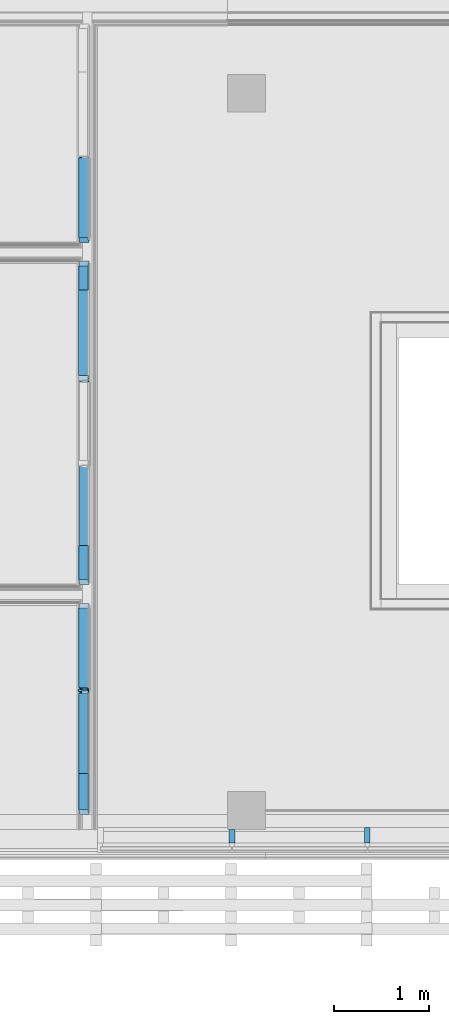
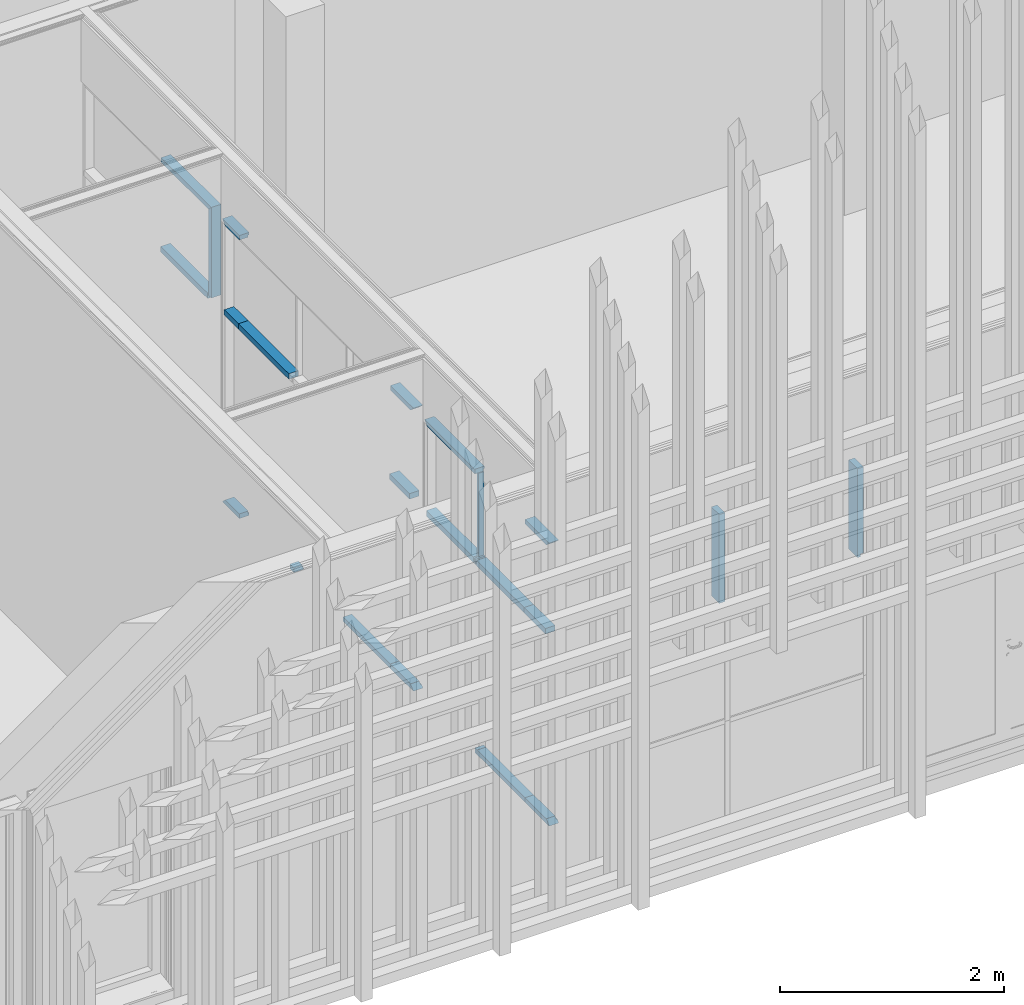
# One storey, part 95 of 260: 24 members, 4 elements without a shape of their own.
"""IFC2X3 building model written with IfcOpenShell, lengths in millimetres."""

from ifc_helpers import new_model, entity, si_unit, converted_unit, derived_unit, money_unit, direction, frame, origin_with_axes, place, context, subcontext, project, spatial, faceted_brep, material, type_object, element, aggregate, save


model = new_model("IFC2X3")

# Units and contexts
model_context = context("Model", 3, precision=0.01, world=origin_with_axes(), true_north=direction((0.0, 1.0)))
body_context = subcontext(model_context, "Body", "Model", "MODEL_VIEW")
ifc_project = project(units=[si_unit("LENGTHUNIT", "METRE", prefix="MILLI"), si_unit("AREAUNIT", "SQUARE_METRE"), si_unit("VOLUMEUNIT", "CUBIC_METRE"), converted_unit("PLANEANGLEUNIT", "DEGREE", entity("IfcPlaneAngleMeasure", 0.0174532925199), si_unit("PLANEANGLEUNIT", "RADIAN"), dimensions=[0, 0, 0, 0, 0, 0, 0]), money_unit("EUR"), converted_unit("TIMEUNIT", "Year", entity("IfcTimeMeasure", 31556926.0), si_unit("TIMEUNIT", "SECOND"), dimensions=[0, 0, 1, 0, 0, 0, 0]), si_unit("MASSUNIT", "GRAM", prefix="KILO"), si_unit("THERMODYNAMICTEMPERATUREUNIT", "DEGREE_CELSIUS"), si_unit("LUMINOUSINTENSITYUNIT", "LUMEN"), si_unit("ENERGYUNIT", "JOULE", prefix="MEGA"), derived_unit("THERMALCONDUCTANCEUNIT", [(si_unit("POWERUNIT", "WATT"), 1), (si_unit("LENGTHUNIT", "METRE"), -1), (si_unit("THERMODYNAMICTEMPERATUREUNIT", "KELVIN"), -1)]), derived_unit("SPECIFICHEATCAPACITYUNIT", [(si_unit("ENERGYUNIT", "JOULE"), 1), (si_unit("MASSUNIT", "GRAM", prefix="KILO"), -1), (si_unit("THERMODYNAMICTEMPERATUREUNIT", "KELVIN"), -1)]), derived_unit("MASSDENSITYUNIT", [(si_unit("MASSUNIT", "GRAM", prefix="KILO"), 1), (si_unit("VOLUMEUNIT", "CUBIC_METRE"), -1)])], contexts=[model_context])

# Site, building, storey
site_placement = place(None, origin_with_axes())
site = spatial("IfcSite", under=ifc_project, at=site_placement, Name="Kolde pst 67a", CompositionType="ELEMENT")
building_placement = place(site_placement, origin_with_axes())
building = spatial("IfcBuilding", under=site, at=building_placement, Name="Riigigümnaasium", CompositionType="ELEMENT")
storey_placement = place(building_placement, origin_with_axes())
storey = spatial("IfcBuildingStorey", under=building, at=storey_placement, Name="1. korrus", CompositionType="ELEMENT", Elevation=0.0)

# Curtain wall, members
curtain_wall_type = type_object("IfcCurtainWallType", Name="Curtain Wall Type", PredefinedType="NOTDEFINED")
curtain_wall_1_placement = place(storey_placement, frame((11015.6058867, 55913.7308132, 399.999999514), z_axis=(0.0, 0.0, 1.0), x_axis=(1.0, 0.0, 0.0)))
curtain_wall_1 = element("IfcCurtainWall", 1, at=curtain_wall_1_placement, inside=storey, type_object=curtain_wall_type, Name="KLAASSEIN")
ifc_material_1 = material(Name="_GENEERILINE MATERJAL")
member_type_1 = type_object("IfcMemberType", Name="Boundary Frame 50 x 100", PredefinedType="MEMBER")
member_1_placement = place(curtain_wall_1_placement, frame((-0.018554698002, -1669.36995033, 2100.00002621), z_axis=(0.0, 0.0, 1.0), x_axis=(1.11147909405e-05, 0.999999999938, 0.0)))
member_1 = element("IfcMember", 2, at=member_1_placement, type_object=member_type_1, material=ifc_material_1, Name="RF RAAM SERV-344", ObjectType="MEMBER", context=body_context, shape_type="Brep", body=[
    faceted_brep([(50.0, 10.0, 0.0), (50.0, 100.0, 0.0), (50.0, 100.0, 940.000002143), (50.0, 10.0, 940.000002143), (25.0, 10.0, 0.0), (25.0, 0.0, 0.0), (0.0, 0.0, 0.0), (0.0, 100.0, 0.0), (0.0, 100.0, 990.000002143), (25.0, 10.0, 965.000002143), (0.0, 0.0, 990.000002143), (25.0, 0.0, 965.000002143)], [[[0, 1, 2, 3]], [[4, 5, 6, 7, 1, 0]], [[1, 7, 8, 2]], [[9, 3, 2, 8, 10, 11]], [[9, 4, 0, 3]], [[5, 4, 9, 11]], [[11, 10, 6, 5]], [[7, 6, 10, 8]]]),
])
member_2_placement = place(curtain_wall_1_placement, frame((-0.018554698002, -1669.36995033, 3090.00002835), z_axis=(1.11147909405e-05, 0.999999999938, 0.0), x_axis=(0.0, 0.0, -1.0)))
member_2 = element("IfcMember", 3, at=member_2_placement, type_object=member_type_1, material=ifc_material_1, Name="RF RAAM SERV-345", ObjectType="MEMBER", context=body_context, shape_type="Brep", body=[
    faceted_brep([(50.0, 10.0000000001, 50.0), (50.0, 100.0, 49.9999999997), (50.0, 100.000000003, 900.0), (50.0, 10.0000000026, 900.0), (25.0, 10.0000000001, 25.0), (25.0, 0.0, 25.0), (0.0, 0.0, 0.0), (0.0, 100.0, -2.91322521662e-10), (0.0, 100.000000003, 900.0), (25.0, 10.0000000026, 900.0), (0.0, 2.62545540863e-09, 900.0), (25.0, 2.62545540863e-09, 900.0)], [[[0, 1, 2, 3]], [[4, 5, 6, 7, 1, 0]], [[2, 1, 7, 8]], [[9, 3, 2, 8, 10, 11]], [[9, 4, 0, 3]], [[5, 4, 9, 11]], [[11, 10, 6, 5]], [[8, 7, 6, 10]]]),
])

curtain_wall_2_placement = place(storey_placement, frame((11015.3356079, 51182.3220161, 399.999976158), z_axis=(0.0, 0.0, 1.0), x_axis=(1.0, 0.0, 0.0)))
curtain_wall_2 = element("IfcCurtainWall", 4, at=curtain_wall_2_placement, inside=storey, type_object=curtain_wall_type, Name="KLAASSEIN")
member_3_placement = place(curtain_wall_2_placement, frame((0.0177246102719, 1594.68678837, 5.96047033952e-06), z_axis=(1.11147909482e-05, 0.999999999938, 0.0), x_axis=(0.0, 0.0, 1.0)))
member_3 = element("IfcMember", 5, at=member_3_placement, type_object=member_type_1, material=ifc_material_1, Name="RF RAAM SERV-501", ObjectType="MEMBER", context=body_context, shape_type="Brep", body=[
    faceted_brep([(50.0, -9.99999999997, -10.0), (50.0, -10.0000000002, 62.9695103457), (50.0, -100.0, 62.9695103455), (50.0, -100.0, -10.0000000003), (25.0, -10.0000000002, 62.9695103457), (25.0, -9.99999999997, -10.0), (25.0, -1.84741111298e-10, 62.9695103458), (0.0, -1.84741111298e-10, 62.9695103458), (0.0, -100.0, 62.9695103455), (0.0, -100.0, -10.0000000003), (0.0, 0.0, -10.0), (25.0, 0.0, -10.0)], [[[0, 1, 2, 3]], [[4, 1, 0, 5]], [[4, 6, 7, 8, 2, 1]], [[3, 2, 8, 9]], [[5, 0, 3, 9, 10, 11]], [[11, 6, 4, 5]], [[6, 11, 10, 7]], [[9, 8, 7, 10]]]),
])
member_4_placement = place(curtain_wall_2_placement, frame((-0.0061391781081, -552.343101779, 5.96047033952e-06), z_axis=(1.11147909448e-05, 0.999999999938, 0.0), x_axis=(0.0, 0.0, 1.0)))
member_4 = element("IfcMember", 6, at=member_4_placement, type_object=member_type_1, material=ifc_material_1, Name="RF RAAM SERV-499", ObjectType="MEMBER", context=body_context, shape_type="Brep", body=[
    faceted_brep([(50.0, -10.0000000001, 50.0), (50.0, -10.0000000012, 409.999400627), (50.0, -100.000000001, 409.999400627), (50.0, -100.0, 49.9999999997), (25.0, -10.0000000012, 409.999400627), (25.0, -10.0000000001, 25.0), (25.0, -1.1990408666e-09, 409.999400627), (0.0, -1.1990408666e-09, 409.999400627), (0.0, -100.000000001, 409.999400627), (0.0, -100.0, -2.98427949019e-10), (0.0, 0.0, 0.0), (25.0, 0.0, 25.0)], [[[0, 1, 2, 3]], [[4, 1, 0, 5]], [[4, 6, 7, 8, 2, 1]], [[2, 8, 9, 3]], [[5, 0, 3, 9, 10, 11]], [[11, 6, 4, 5]], [[6, 11, 10, 7]], [[8, 7, 10, 9]]]),
])
member_5_placement = place(curtain_wall_2_placement, frame((-0.00158212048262, -142.343701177, 5.96047033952e-06), z_axis=(1.11147909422e-05, 0.999999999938, 0.0), x_axis=(0.0, 0.0, 1.0)))
member_5 = element("IfcMember", 7, at=member_5_placement, type_object=member_type_1, material=ifc_material_1, Name="RF RAAM SERV-500", ObjectType="MEMBER", context=body_context, shape_type="Brep", body=[
    faceted_brep([(50.0, -10.0, 0.0), (50.0, -10.0000000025, 847.030504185), (50.0, -100.000000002, 847.030504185), (50.0, -100.0, -2.91322521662e-10), (25.0, -10.0000000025, 847.030504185), (25.0, -10.0, 0.0), (25.0, -2.47446507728e-09, 847.030504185), (0.0, -2.47446507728e-09, 847.030504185), (0.0, -100.000000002, 847.030504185), (0.0, -100.0, -2.91322521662e-10), (0.0, 0.0, 0.0), (25.0, 0.0, 0.0)], [[[0, 1, 2, 3]], [[4, 1, 0, 5]], [[4, 6, 7, 8, 2, 1]], [[3, 2, 8, 9]], [[5, 0, 3, 9, 10, 11]], [[11, 6, 4, 5]], [[6, 11, 10, 7]], [[9, 8, 7, 10]]]),
])
member_6_placement = place(curtain_wall_2_placement, frame((-0.00158212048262, -142.343701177, 3090.0000517), z_axis=(-1.11147909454e-05, -0.999999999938, -1.56488529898e-07), x_axis=(0.0, 1.56488529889e-07, -1.0)))
member_6 = element("IfcMember", 8, at=member_6_placement, type_object=member_type_1, material=ifc_material_1, Name="RF RAAM SERV-510", ObjectType="MEMBER", context=body_context, shape_type="Brep", body=[
    faceted_brep([(50.0, -10.0, 3.91224119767e-06), (49.9999436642, -9.99999999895, 359.999421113), (49.9999436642, -99.9999999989, 359.999421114), (50.0, -100.0, 3.91250409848e-06), (24.999939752, -9.99999999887, 384.999413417), (25.0, -10.0, 0.0), (24.999939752, 1.12443387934e-09, 384.999413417), (-6.41602042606e-05, 1.19726450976e-09, 409.999405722), (-6.41602042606e-05, -99.9999999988, 409.999405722), (0.0, -100.0, -3.91192145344e-06), (0.0, 0.0, -3.91221277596e-06), (25.0, 0.0, 0.0)], [[[0, 1, 2, 3]], [[4, 1, 0, 5]], [[4, 6, 7, 8, 2, 1]], [[3, 2, 8, 9]], [[5, 0, 3, 9, 10, 11]], [[11, 6, 4, 5]], [[6, 11, 10, 7]], [[9, 8, 7, 10]]]),
])
member_7_placement = place(curtain_wall_2_placement, frame((0.0318180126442, 2862.67306383, 3089.99998282), z_axis=(-1.11147909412e-05, -0.999999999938, 2.25843344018e-07), x_axis=(0.0, -2.25843344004e-07, -1.0)))
member_7 = element("IfcMember", 9, at=member_7_placement, type_object=member_type_1, material=ifc_material_1, Name="RF RAAM SERV-506", ObjectType="MEMBER", context=body_context, shape_type="Brep", body=[
    faceted_brep([(50.0000112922, -9.99999999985, 49.9999774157), (50.000068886, -9.99999999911, 305.016759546), (50.000068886, -99.9999999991, 305.016759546), (50.0000112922, -99.9999999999, 49.999977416), (25.000068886, -9.99999999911, 305.016765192), (25.0000056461, -9.99999999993, 24.9999887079), (25.000068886, 8.8995477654e-10, 305.016765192), (6.88860075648e-05, 8.8995477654e-10, 305.016770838), (6.88860075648e-05, -99.9999999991, 305.016770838), (0.0, -100.0, 2.91322521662e-10), (0.0, 0.0, 0.0), (25.0000056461, 0.0, 24.9999887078)], [[[0, 1, 2, 3]], [[4, 1, 0, 5]], [[4, 6, 7, 8, 2, 1]], [[2, 8, 9, 3]], [[5, 0, 3, 9, 10, 11]], [[11, 6, 4, 5]], [[6, 11, 10, 7]], [[8, 7, 10, 9]]]),
])
member_8_placement = place(curtain_wall_2_placement, frame((0.0284278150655, 2557.65629866, 5.96047033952e-06), z_axis=(1.11147909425e-05, 0.999999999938, 0.0), x_axis=(0.0, 0.0, 1.0)))
member_8 = element("IfcMember", 10, at=member_8_placement, type_object=member_type_1, material=ifc_material_1, Name="RF RAAM SERV-503", ObjectType="MEMBER", context=body_context, shape_type="Brep", body=[
    faceted_brep([(50.0, -10.0, 0.0), (50.0, -10.0000000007, 255.016777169), (50.0, -100.000000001, 255.016777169), (50.0, -100.0, -2.91322521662e-10), (25.0, -10.0000000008, 280.016777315), (25.0, -10.0, 0.0), (25.0, -8.18900502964e-10, 280.016777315), (0.0, -8.91731133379e-10, 305.016777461), (0.0, -100.000000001, 305.016777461), (0.0, -100.0, -2.91322521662e-10), (0.0, 0.0, 0.0), (25.0, 0.0, 0.0)], [[[0, 1, 2, 3]], [[4, 1, 0, 5]], [[4, 6, 7, 8, 2, 1]], [[3, 2, 8, 9]], [[5, 0, 3, 9, 10, 11]], [[11, 6, 4, 5]], [[6, 11, 10, 7]], [[9, 8, 7, 10]]]),
])

curtain_wall_3_placement = place(storey_placement, frame((11015.4348778, 48773.3132292, 399.999999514), z_axis=(0.0, 0.0, 1.0), x_axis=(1.0, 0.0, 0.0)))
curtain_wall_3 = element("IfcCurtainWall", 11, at=curtain_wall_3_placement, inside=storey, type_object=curtain_wall_type, Name="KLAASSEIN")
member_9_placement = place(curtain_wall_3_placement, frame((-0.0078227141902, 716.666192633, 0.0), z_axis=(-1.09154223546e-05, 0.99999999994, 0.0), x_axis=(0.0, 0.0, 1.0)))
member_9 = element("IfcMember", 12, at=member_9_placement, type_object=member_type_1, material=ifc_material_1, Name="RF RAAM SERV-335", ObjectType="MEMBER", context=body_context, shape_type="Brep", body=[
    faceted_brep([(50.0, -10.0, 0.0), (50.0, -9.99999999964, 40.0000038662), (50.0, -99.9999999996, 40.000003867), (50.0, -100.0, 8.95283847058e-10), (25.0, -9.99999999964, 40.0000038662), (25.0, -10.0, 0.0), (25.0, 3.60600438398e-10, 40.0000038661), (0.0, 3.60600438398e-10, 40.0000038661), (0.0, -99.9999999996, 40.000003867), (0.0, -100.0, 8.95283847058e-10), (0.0, 0.0, 0.0), (25.0, 0.0, 0.0)], [[[0, 1, 2, 3]], [[4, 1, 0, 5]], [[4, 6, 7, 8, 2, 1]], [[3, 2, 8, 9]], [[5, 0, 3, 9, 10, 11]], [[11, 6, 4, 5]], [[6, 11, 10, 7]], [[9, 8, 7, 10]]]),
])
member_10_placement = place(curtain_wall_3_placement, frame((0.00625816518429, -573.332389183, 0.0), z_axis=(-1.09154223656e-05, 0.99999999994, 0.0), x_axis=(0.0, 0.0, 1.0)))
member_10 = element("IfcMember", 13, at=member_10_placement, type_object=member_type_1, material=ifc_material_1, Name="RF RAAM SERV-334", ObjectType="MEMBER", context=body_context, shape_type="Brep", body=[
    faceted_brep([(50.0, -10.0000000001, 50.0), (50.0, -10.0000000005, 429.998585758), (50.0, -100.0, 429.998585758), (50.0, -100.0, 49.9999999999), (25.0, -10.0000000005, 429.998585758), (25.0, -10.0, 25.0), (25.0, -4.95603558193e-10, 429.998585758), (0.0, -4.95603558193e-10, 429.998585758), (0.0, -100.0, 429.998585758), (0.0, -100.0, -1.13686837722e-10), (0.0, 0.0, 0.0), (25.0, 0.0, 25.0)], [[[0, 1, 2, 3]], [[4, 1, 0, 5]], [[4, 6, 7, 8, 2, 1]], [[2, 8, 9, 3]], [[5, 0, 3, 9, 10, 11]], [[11, 6, 4, 5]], [[6, 11, 10, 7]], [[8, 7, 10, 9]]]),
])
member_11_placement = place(curtain_wall_3_placement, frame((-0.0180832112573, 1656.66619644, 3090.00002835), z_axis=(1.09154223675e-05, -0.99999999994, 0.0), x_axis=(0.0, 0.0, -1.0)))
member_11 = element("IfcMember", 14, at=member_11_placement, type_object=member_type_1, material=ifc_material_1, Name="RF RAAM SERV-339", ObjectType="MEMBER", context=body_context, shape_type="Brep", body=[
    faceted_brep([(50.0, -9.99999999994, 50.0), (50.0, -9.99999999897, 900.0), (50.0, -99.999999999, 900.0), (50.0, -99.9999999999, 50.0000000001), (25.0, -9.99999999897, 900.0), (25.0, -9.99999999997, 25.0), (25.0, 1.02851061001e-09, 900.0), (0.0, 1.02851061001e-09, 900.0), (0.0, -99.999999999, 900.0), (0.0, -100.0, 1.13686837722e-10), (0.0, 0.0, 0.0), (25.0, 0.0, 25.0)], [[[0, 1, 2, 3]], [[4, 1, 0, 5]], [[4, 6, 7, 8, 2, 1]], [[2, 8, 9, 3]], [[5, 0, 3, 9, 10, 11]], [[11, 6, 4, 5]], [[6, 11, 10, 7]], [[8, 7, 10, 9]]]),
])
member_12_placement = place(curtain_wall_3_placement, frame((0.00156454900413, -143.33380345, 3090.00002835), z_axis=(1.09154223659e-05, -0.99999999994, -2.98976305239e-10), x_axis=(0.0, 2.98976305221e-10, -1.0)))
member_12 = element("IfcMember", 15, at=member_12_placement, type_object=member_type_1, material=ifc_material_1, Name="RF RAAM SERV-341", ObjectType="MEMBER", context=body_context, shape_type="Brep", body=[
    faceted_brep([(50.0, -10.0, 7.48201500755e-09), (49.9999998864, -9.99999999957, 379.998576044), (49.9999998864, -99.9999999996, 379.998576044), (50.0, -100.0, 7.58859641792e-09), (24.9999998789, -9.99999999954, 404.998575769), (25.0, -10.0, 0.0), (24.9999998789, 4.63629135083e-10, 404.998575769), (-1.28559385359e-07, 4.93827201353e-10, 429.998575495), (-1.28559385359e-07, -99.9999999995, 429.998575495), (0.0, -100.0, -7.36122274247e-09), (0.0, 0.0, -7.4749095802e-09), (25.0, 0.0, 0.0)], [[[0, 1, 2, 3]], [[4, 1, 0, 5]], [[4, 6, 7, 8, 2, 1]], [[3, 2, 8, 9]], [[5, 0, 3, 9, 10, 11]], [[11, 6, 4, 5]], [[6, 11, 10, 7]], [[9, 8, 7, 10]]]),
])
member_13_placement = place(curtain_wall_3_placement, frame((0.00156454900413, -143.33380345, 0.0), z_axis=(-1.09154223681e-05, 0.99999999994, 0.0), x_axis=(0.0, 0.0, 1.0)))
member_13 = element("IfcMember", 16, at=member_13_placement, type_object=member_type_1, material=ifc_material_1, Name="RF RAAM SERV-344", ObjectType="MEMBER", context=body_context, shape_type="Brep", body=[
    faceted_brep([(50.0, -10.0, 0.0), (50.0, -10.000000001, 859.999996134), (50.0, -100.000000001, 859.999996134), (50.0, -100.0, -1.13686837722e-10), (25.0, -10.000000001, 859.999996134), (25.0, -10.0, 0.0), (25.0, -9.85878045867e-10, 859.999996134), (0.0, -9.85878045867e-10, 859.999996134), (0.0, -100.000000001, 859.999996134), (0.0, -100.0, -1.13686837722e-10), (0.0, 0.0, 0.0), (25.0, 0.0, 0.0)], [[[0, 1, 2, 3]], [[4, 1, 0, 5]], [[4, 6, 7, 8, 2, 1]], [[3, 2, 8, 9]], [[5, 0, 3, 9, 10, 11]], [[11, 6, 4, 5]], [[6, 11, 10, 7]], [[9, 8, 7, 10]]]),
])

# Member
member_type_2 = type_object("IfcMemberType", Name="Transom Frame 60 x 100", PredefinedType="MEMBER")
member_14_placement = place(curtain_wall_1_placement, frame((-0.00855138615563, -769.36995039, 2100.00002621), z_axis=(-1.11147909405e-05, -0.999999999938, 0.0), x_axis=(0.0, 0.0, 1.0)))
member_14 = element("IfcMember", 17, at=member_14_placement, type_object=member_type_2, material=ifc_material_1, Name="RF RAAM HOR-434", ObjectType="MEMBER", context=body_context, shape_type="Brep", body=[
    faceted_brep([(30.0, 9.99999999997, 10.0), (30.0, 110.0, 10.0000000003), (30.0, 109.999999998, 850.0), (30.0, 9.99999999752, 850.0), (-30.0, 9.99999999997, 10.0), (-30.0, 110.0, 10.0000000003), (-30.0, 109.999999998, 850.0), (-30.0, 9.99999999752, 850.0)], [[[0, 1, 2, 3]], [[1, 0, 4, 5]], [[1, 5, 6, 2]], [[2, 6, 7, 3]], [[4, 0, 3, 7]], [[5, 4, 7, 6]]]),
])

aggregate(curtain_wall_1, [member_14, member_1, member_2])

member_15_placement = place(curtain_wall_2_placement, frame((-0.0061391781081, -552.343101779, 2100.00004956), z_axis=(1.11147909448e-05, 0.999999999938, 0.0), x_axis=(0.0, 0.0, 1.0)))
member_15 = element("IfcMember", 18, at=member_15_placement, type_object=member_type_2, material=ifc_material_1, Name="RF RAAM HOR-472", ObjectType="MEMBER", context=body_context, shape_type="Brep", body=[
    faceted_brep([(30.0, -10.0000000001, 50.0000000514), (30.0, -10.0000000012, 409.999400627), (30.0, -110.000000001, 409.999400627), (30.0, -110.0, 50.0000005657), (-30.0, -10.0000000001, 50.0000000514), (-30.0, -10.0000000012, 409.999400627), (-30.0, -110.000000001, 409.999400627), (-30.0, -110.0, 50.0000005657)], [[[0, 1, 2, 3]], [[4, 5, 1, 0]], [[2, 1, 5, 6]], [[3, 2, 6, 7]], [[3, 7, 4, 0]], [[7, 6, 5, 4]]]),
])

member_16_placement = place(curtain_wall_2_placement, frame((0.0184245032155, 1657.65629871, 2100.00004956), z_axis=(1.11147909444e-05, 0.999999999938, 0.0), x_axis=(0.0, 0.0, 1.0)))
member_16 = element("IfcMember", 19, at=member_16_placement, type_object=member_type_2, material=ifc_material_1, Name="RF RAAM HOR-467", ObjectType="MEMBER", context=body_context, shape_type="Brep", body=[
    faceted_brep([(30.0, -110.0, -3.2684965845e-10), (30.0, -10.0, 0.0), (30.0, -10.0000000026, 900.0), (30.0, -110.000000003, 900.0), (-30.0, -110.0, -3.2684965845e-10), (-30.0, -10.0, 0.0), (-30.0, -10.0000000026, 900.0), (-30.0, -110.000000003, 900.0)], [[[0, 1, 2, 3]], [[0, 4, 5, 1]], [[1, 5, 6, 2]], [[3, 2, 6, 7]], [[4, 0, 3, 7]], [[5, 4, 7, 6]]]),
])

member_17_placement = place(curtain_wall_2_placement, frame((0.0284278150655, 2557.65629866, 2100.00004956), z_axis=(1.11147909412e-05, 0.999999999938, 0.0), x_axis=(0.0, 0.0, 1.0)))
member_17 = element("IfcMember", 20, at=member_17_placement, type_object=member_type_2, material=ifc_material_1, Name="RF RAAM HOR-562", ObjectType="MEMBER", context=body_context, shape_type="Brep", body=[
    faceted_brep([(30.0, -110.0, -3.2684965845e-10), (30.0, -10.0, 0.0), (30.0, -10.0000000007, 255.016765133), (30.0, -110.000000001, 255.016764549), (-30.0, -110.0, -3.2684965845e-10), (-30.0, -10.0, 0.0), (-30.0, -10.0000000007, 255.016765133), (-30.0, -110.000000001, 255.016764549)], [[[0, 1, 2, 3]], [[0, 4, 5, 1]], [[1, 5, 6, 2]], [[3, 2, 6, 7]], [[4, 0, 3, 7]], [[5, 4, 7, 6]]]),
])

aggregate(curtain_wall_2, [member_15, member_3, member_16, member_4, member_5, member_6, member_7, member_17, member_8])

member_18_placement = place(curtain_wall_3_placement, frame((0.00625816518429, -573.332389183, 2100.00002621), z_axis=(-1.09154223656e-05, 0.99999999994, 0.0), x_axis=(0.0, 0.0, 1.0)))
member_18 = element("IfcMember", 21, at=member_18_placement, type_object=member_type_2, material=ifc_material_1, Name="RF RAAM HOR-433", ObjectType="MEMBER", context=body_context, shape_type="Brep", body=[
    faceted_brep([(30.0, -10.0000000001, 50.0), (30.0, -10.0000000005, 429.998585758), (30.0, -110.0, 429.998585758), (30.0, -110.0, 49.9999999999), (-30.0, -10.0000000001, 50.0), (-30.0, -10.0000000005, 429.998585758), (-30.0, -110.0, 429.998585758), (-30.0, -110.0, 49.9999999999)], [[[0, 1, 2, 3]], [[4, 5, 1, 0]], [[2, 1, 5, 6]], [[3, 2, 6, 7]], [[3, 7, 4, 0]], [[7, 6, 5, 4]]]),
])

member_19_placement = place(curtain_wall_3_placement, frame((-0.0078227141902, 716.666192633, 2100.00002621), z_axis=(-1.09154223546e-05, 0.99999999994, 0.0), x_axis=(0.0, 0.0, 1.0)))
member_19 = element("IfcMember", 22, at=member_19_placement, type_object=member_type_2, material=ifc_material_1, Name="RF RAAM HOR-432", ObjectType="MEMBER", context=body_context, shape_type="Brep", body=[
    faceted_brep([(30.0, -9.99999999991, 10.0000000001), (30.0, -9.99999999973, 30.0000038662), (30.0, -110.0, 30.0000038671), (30.0, -110.0, 10.000000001), (-30.0, -9.99999999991, 10.0000000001), (-30.0, -9.99999999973, 30.0000038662), (-30.0, -110.0, 30.0000038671), (-30.0, -110.0, 10.000000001)], [[[0, 1, 2, 3]], [[4, 5, 1, 0]], [[2, 1, 5, 6]], [[3, 2, 6, 7]], [[3, 7, 4, 0]], [[7, 6, 5, 4]]]),
])

member_20_placement = place(curtain_wall_3_placement, frame((-0.00825933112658, 756.666196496, 2100.00002621), z_axis=(-1.09154223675e-05, 0.99999999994, 0.0), x_axis=(0.0, 0.0, 1.0)))
member_20 = element("IfcMember", 23, at=member_20_placement, type_object=member_type_2, material=ifc_material_1, Name="RF RAAM HOR-431", ObjectType="MEMBER", context=body_context, shape_type="Brep", body=[
    faceted_brep([(30.0, -10.0, 10.0), (30.0, -10.000000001, 850.0), (30.0, -110.000000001, 850.0), (30.0, -110.0, 9.99999999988), (-30.0, -10.0, 10.0), (-30.0, -10.000000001, 850.0), (-30.0, -110.000000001, 850.0), (-30.0, -110.0, 9.99999999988)], [[[0, 1, 2, 3]], [[4, 5, 1, 0]], [[2, 1, 5, 6]], [[3, 2, 6, 7]], [[3, 7, 4, 0]], [[7, 6, 5, 4]]]),
])

member_21_placement = place(curtain_wall_3_placement, frame((0.00156454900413, -143.33380345, 2100.00002621), z_axis=(-1.09154223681e-05, 0.99999999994, 0.0), x_axis=(0.0, 0.0, 1.0)))
member_21 = element("IfcMember", 24, at=member_21_placement, type_object=member_type_2, material=ifc_material_1, Name="RF RAAM HOR-463", ObjectType="MEMBER", context=body_context, shape_type="Brep", body=[
    faceted_brep([(30.0, -110.0, -1.27897692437e-10), (30.0, -10.0, 0.0), (30.0, -10.000000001, 849.999996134), (30.0, -110.000000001, 849.999996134), (-30.0, -110.0, -1.27897692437e-10), (-30.0, -10.0, 0.0), (-30.0, -10.000000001, 849.999996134), (-30.0, -110.000000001, 849.999996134)], [[[0, 1, 2, 3]], [[0, 4, 5, 1]], [[1, 5, 6, 2]], [[3, 2, 6, 7]], [[4, 0, 3, 7]], [[5, 4, 7, 6]]]),
])

ifc_material_2 = material(Name="_METALL - alumiinium")
member_type_3 = type_object("IfcMemberType", Name="Mullion Frame 20 x 70", PredefinedType="MEMBER")
member_22_placement = place(curtain_wall_3_placement, frame((-0.00825933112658, 756.666196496, 2100.00002621), z_axis=(0.0, 0.0, 1.0), x_axis=(1.09154223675e-05, -0.99999999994, 0.0)))
member_22 = element("IfcMember", 25, at=member_22_placement, type_object=member_type_3, material=ifc_material_2, Name="RF RAAM VERT-401", ObjectType="MEMBER", context=body_context, shape_type="Brep", body=[
    faceted_brep([(0.0, -10.0, -30.0), (-10.0, -10.0, -30.0), (-10.0, -10.0, 940.000002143), (0.0, -10.0, 940.000002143), (10.0, -10.0, 940.000002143), (10.0, -10.0, -30.0), (9.99999999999, -70.0, -30.0), (-10.0, -70.0, -30.0), (-10.0, -70.0, 940.000002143), (9.99999999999, -70.0, 940.000002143)], [[[0, 1, 2, 3, 4, 5]], [[1, 0, 5, 6, 7]], [[2, 1, 7, 8]], [[3, 2, 8, 9, 4]], [[4, 9, 6, 5]], [[9, 8, 7, 6]]]),
])

aggregate(curtain_wall_3, [member_18, member_9, member_19, member_20, member_10, member_22, member_11, member_12, member_13, member_21])

# Curtain wall, members
curtain_wall_4_placement = place(storey_placement, frame((20393.1747334, 47899.7660528, -0.000116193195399), z_axis=(0.0, 0.0, 1.0), x_axis=(1.0, 0.0, 0.0)))
curtain_wall_4 = element("IfcCurtainWall", 26, at=curtain_wall_4_placement, inside=storey, type_object=curtain_wall_type, Name="Klaasfassaadi puitkarkass")
ifc_material_3 = material(Name="_KANDETARIND - liimpuit vastavalt EK osale")
member_type_4 = type_object("IfcMemberType", Name="Mullion Frame 60 x 160", PredefinedType="MEMBER")
member_23_placement = place(curtain_wall_4_placement, frame((-6435.0, 0.0, 2460.00011619), z_axis=(0.0, 0.0, 1.0), x_axis=(1.0, 0.0, 0.0)))
member_23 = element("IfcMember", 27, at=member_23_placement, type_object=member_type_4, material=ifc_material_3, Name="RF RAAM VERT-451", ObjectType="MEMBER", context=body_context, shape_type="Brep", body=[
    faceted_brep([(30.0, 160.0, 30.0), (30.0, 160.0, 970.000094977), (30.0, 0.0, 970.000094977), (30.0, 0.0, 30.0), (0.0, 160.0, 30.0), (0.0, 160.0, 0.0), (-30.0, 160.0, 0.0), (-30.0, 160.0, 970.000094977), (-30.0, 0.0, 970.000094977), (0.0, 0.0, 30.0), (-30.0, 0.0, 0.0), (0.0, 0.0, 0.0)], [[[0, 1, 2, 3]], [[4, 5, 6, 7, 1, 0]], [[2, 1, 7, 8]], [[9, 3, 2, 8, 10, 11]], [[9, 4, 0, 3]], [[11, 5, 4, 9]], [[11, 10, 6, 5]], [[6, 10, 8, 7]]]),
])
member_24_placement = place(curtain_wall_4_placement, frame((-7865.0, 0.0, 2460.00011619), z_axis=(0.0, 0.0, 1.0), x_axis=(1.0, 0.0, 0.0)))
member_24 = element("IfcMember", 28, at=member_24_placement, type_object=member_type_4, material=ifc_material_3, Name="RF RAAM VERT-452", ObjectType="MEMBER", context=body_context, shape_type="Brep", body=[
    faceted_brep([(30.0, 139.983201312, 0.0), (30.0, 139.983201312, 970.000020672), (30.0, 0.0, 970.000027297), (30.0, 0.0, 0.0), (-30.0, 139.983201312, 970.000020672), (-30.0, 139.983201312, 0.0), (-30.0, 0.0, 970.000027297), (-30.0, 0.0, 0.0)], [[[0, 1, 2, 3]], [[4, 1, 0, 5]], [[1, 4, 6, 2]], [[7, 3, 2, 6]], [[5, 0, 3, 7]], [[4, 5, 7, 6]]]),
])
aggregate(curtain_wall_4, [member_23, member_24])

save(model, "model.ifc")
